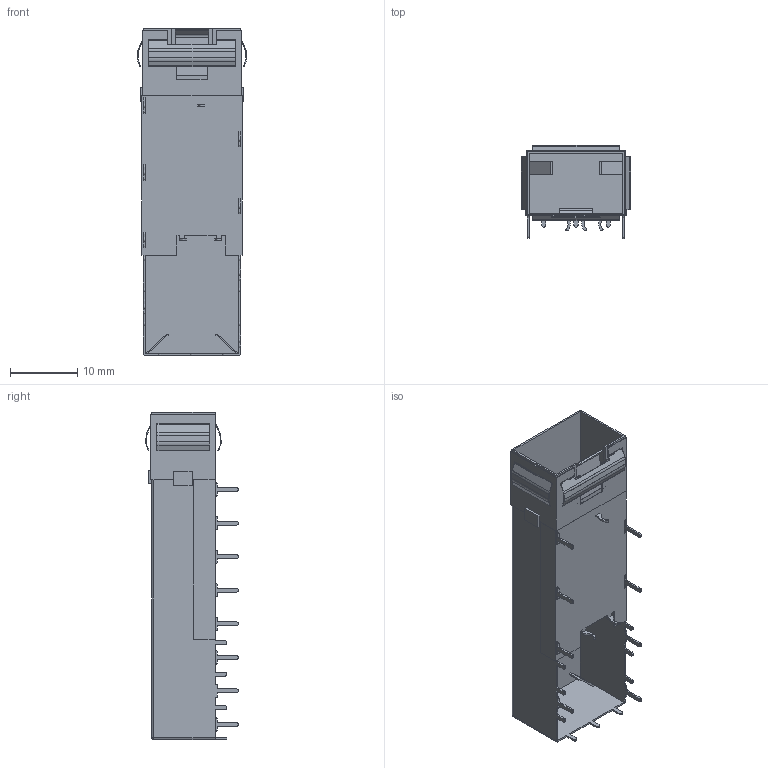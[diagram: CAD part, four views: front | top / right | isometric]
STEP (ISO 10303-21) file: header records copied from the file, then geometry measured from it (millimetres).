
FILE_DESCRIPTION (( 'STEP AP203' ), '1' );
FILE_NAME ('SFP+ 1X1 ｺｸｽﾓｽﾅ ﾓﾐﾔﾂﾑﾀ｣ｨ3D-20210326｣ｩ.STEP', '2021-03-26T01:14:04', ( 'ﾉ｣ﾈｲｩｿﾍ' ), ( 'Www.SangSan.Cn' ), 'SwSTEP 2.0', 'SolidWorks 2018', '' );
FILE_SCHEMA (( 'CONFIG_CONTROL_DESIGN' ));
Length unit declared in the file: millimetre
Products named in the file (1): SFP+ 1X1 焊接脚  有月牙（3D-20210326）
Bounding box: 16.3 x 13.8 x 48.75 mm (x, y, z)
Volume: 668.6 mm3; surface area: 4918.4 mm2
Topology: 1 solids, 1 shells, 346 faces, 1059 edges, 718 vertices
Faces by surface type: plane 221, cylinder 123, sphere 2
Entity records: 11952 total; most frequent: CARTESIAN_POINT 2122, ORIENTED_EDGE 2114, DIRECTION 1997, EDGE_CURVE 1057, VECTOR 811, LINE 811, VERTEX_POINT 718, AXIS2_PLACEMENT_3D 593
